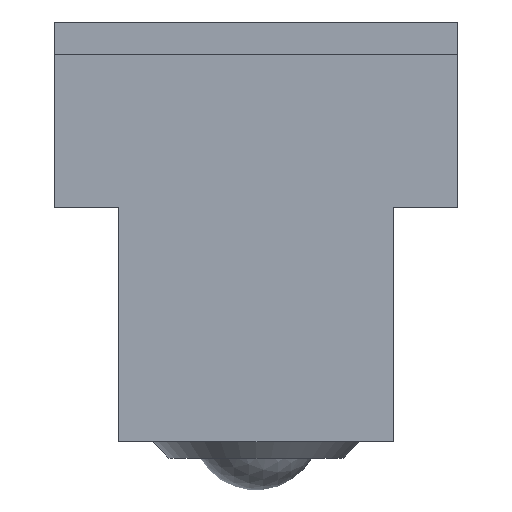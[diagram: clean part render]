
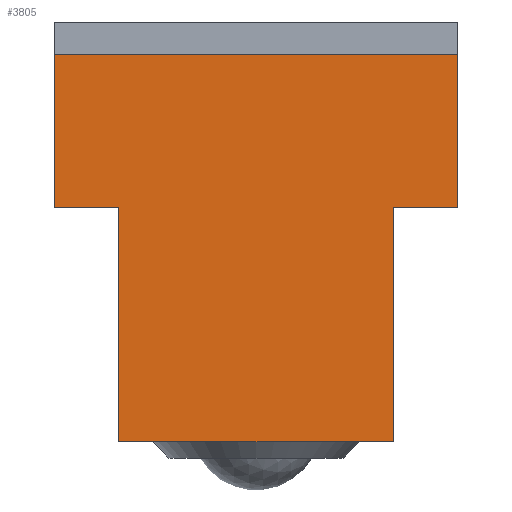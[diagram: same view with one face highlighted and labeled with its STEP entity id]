
A CAD part, left-side view. The second image highlights one B-rep face of the part: STEP entity #3805.
In plain terms, the highlighted planar face has unit normal (-1, 0, 0) as drawn and (0, 0, -1) by its records, which use the part's own axes.
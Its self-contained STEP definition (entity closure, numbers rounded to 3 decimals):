
#220=LINE('',#5818,#468);
#225=LINE('',#5828,#473);
#232=LINE('',#5854,#480);
#239=LINE('',#5868,#487);
#242=LINE('',#5872,#490);
#243=LINE('',#5874,#491);
#244=LINE('',#5877,#492);
#246=LINE('',#5880,#494);
#468=VECTOR('',#4647,14.5);
#473=VECTOR('',#4654,4.);
#480=VECTOR('',#4683,14.5);
#487=VECTOR('',#4694,9.5);
#490=VECTOR('',#4699,4.);
#491=VECTOR('',#4702,17.);
#492=VECTOR('',#4705,9.5);
#494=VECTOR('',#4709,25.);
#712=PLANE('',#4094);
#1083=FACE_OUTER_BOUND('',#1374,.T.);
#1374=EDGE_LOOP('',(#2909,#2910,#2911,#2912,#2913,#2914,#2915,#2916));
#1928=VERTEX_POINT('',#5815);
#1929=VERTEX_POINT('',#5817);
#1932=VERTEX_POINT('',#5825);
#1933=VERTEX_POINT('',#5827);
#1941=VERTEX_POINT('',#5853);
#1945=VERTEX_POINT('',#5866);
#1946=VERTEX_POINT('',#5867);
#1947=VERTEX_POINT('',#5876);
#2306=EDGE_CURVE('',#1928,#1929,#220,.T.);
#2311=EDGE_CURVE('',#1932,#1933,#225,.T.);
#2322=EDGE_CURVE('',#1933,#1941,#232,.T.);
#2329=EDGE_CURVE('',#1945,#1946,#239,.T.);
#2332=EDGE_CURVE('',#1929,#1945,#242,.T.);
#2333=EDGE_CURVE('',#1941,#1928,#243,.T.);
#2334=EDGE_CURVE('',#1947,#1932,#244,.T.);
#2336=EDGE_CURVE('',#1946,#1947,#246,.T.);
#2909=ORIENTED_EDGE('',*,*,#2336,.F.);
#2910=ORIENTED_EDGE('',*,*,#2329,.F.);
#2911=ORIENTED_EDGE('',*,*,#2332,.F.);
#2912=ORIENTED_EDGE('',*,*,#2306,.F.);
#2913=ORIENTED_EDGE('',*,*,#2333,.F.);
#2914=ORIENTED_EDGE('',*,*,#2322,.F.);
#2915=ORIENTED_EDGE('',*,*,#2311,.F.);
#2916=ORIENTED_EDGE('',*,*,#2334,.F.);
#3805=ADVANCED_FACE('',(#1083),#712,.F.);
#4094=AXIS2_PLACEMENT_3D('',#5881,#4710,#4711);
#4647=DIRECTION('',(0.,-1.,0.));
#4654=DIRECTION('',(-1.,0.,0.));
#4683=DIRECTION('',(0.,1.,0.));
#4694=DIRECTION('',(0.,-1.,0.));
#4699=DIRECTION('',(-1.,0.,0.));
#4702=DIRECTION('',(-1.,0.,0.));
#4705=DIRECTION('',(0.,1.,0.));
#4709=DIRECTION('',(1.,0.,0.));
#4710=DIRECTION('center_axis',(0.,0.,1.));
#4711=DIRECTION('ref_axis',(1.,0.,0.));
#5815=CARTESIAN_POINT('',(4.,24.,0.));
#5817=CARTESIAN_POINT('',(4.,9.5,0.));
#5818=CARTESIAN_POINT('',(4.,24.,0.));
#5825=CARTESIAN_POINT('',(25.,9.5,0.));
#5827=CARTESIAN_POINT('',(21.,9.5,0.));
#5828=CARTESIAN_POINT('',(25.,9.5,0.));
#5853=CARTESIAN_POINT('',(21.,24.,0.));
#5854=CARTESIAN_POINT('',(21.,9.5,0.));
#5866=CARTESIAN_POINT('',(0.,9.5,0.));
#5867=CARTESIAN_POINT('',(0.,0.,0.));
#5868=CARTESIAN_POINT('',(0.,9.5,0.));
#5872=CARTESIAN_POINT('',(4.,9.5,0.));
#5874=CARTESIAN_POINT('',(21.,24.,0.));
#5876=CARTESIAN_POINT('',(25.,0.,0.));
#5877=CARTESIAN_POINT('',(25.,0.,0.));
#5880=CARTESIAN_POINT('',(0.,0.,0.));
#5881=CARTESIAN_POINT('Origin',(12.5,10.816,0.));
